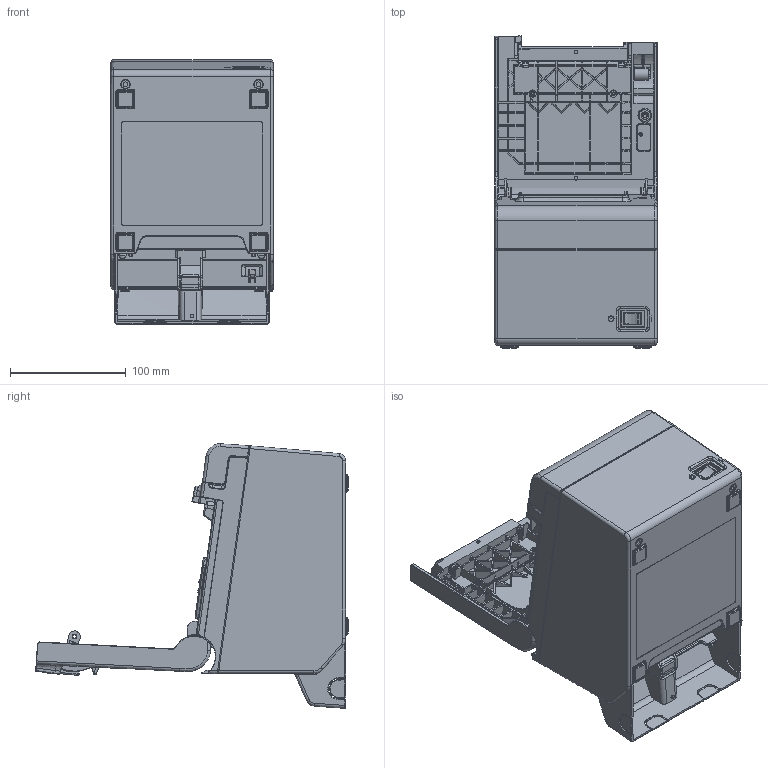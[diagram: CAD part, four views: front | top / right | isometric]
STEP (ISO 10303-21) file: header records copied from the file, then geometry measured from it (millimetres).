
FILE_DESCRIPTION((''),'2;1');
FILE_NAME('TM-T800F_OPEN_SW','2025-01-28T14:27:24',('5012938'),(''),'CREO PARAMETRIC BY PTC INC, 2022281','CREO PARAMETRIC BY PTC INC, 2022281','');
FILE_SCHEMA(('AUTOMOTIVE_DESIGN { 1 0 10303 214 1 1 1 1 }'));
Products named in the file (1): TM-T800F_OPEN_SW
Bounding box: 140 x 269.89 x 228.6 mm (x, y, z)
Surface area: 456809.5 mm2 (no closed solid volume)
Topology: 0 solids, 61 shells, 4126 faces, 12516 edges, 8275 vertices
Faces by surface type: plane 2297, cylinder 1229, bspline 334, torus 110, cone 108, sphere 37, extrusion 11
Entity records: 189893 total; most frequent: CARTESIAN_POINT 80963, ORIENTED_EDGE 22761, DIRECTION 21186, EDGE_CURVE 12504, VECTOR 8510, LINE 8499, VERTEX_POINT 8275, AXIS2_PLACEMENT_3D 6338
